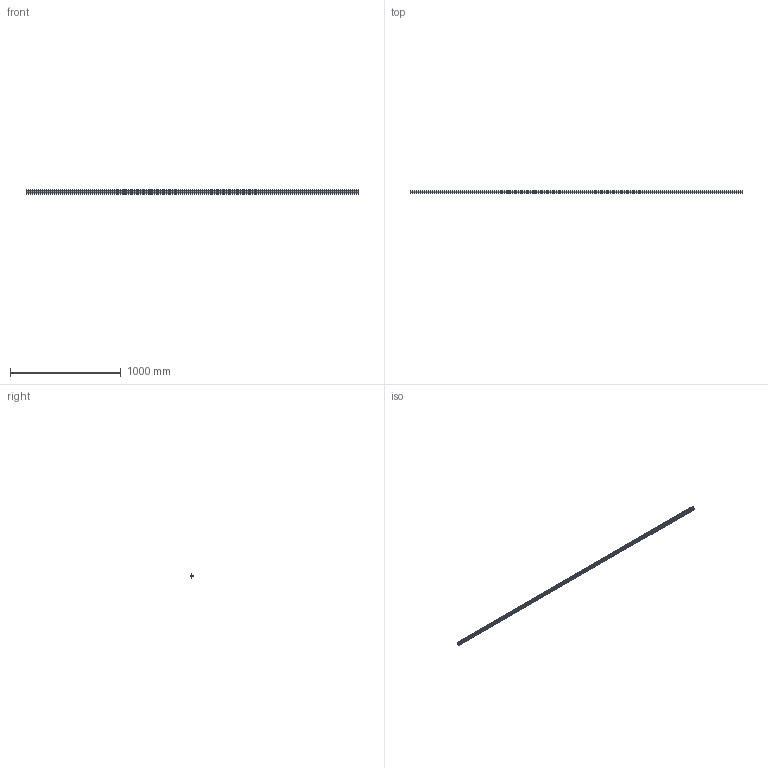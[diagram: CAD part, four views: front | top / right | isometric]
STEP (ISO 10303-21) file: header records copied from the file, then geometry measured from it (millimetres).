
FILE_DESCRIPTION((''),'2;1');
FILE_NAME('KC-0006-02-M7E-2000_ASM','2025-08-01T14:11:09',('YF-06'),(''),'CREO PARAMETRIC BY PTC INC, 2022073','CREO PARAMETRIC BY PTC INC, 2022073','');
FILE_SCHEMA(('CONFIG_CONTROL_DESIGN','SHAPE_APPEARANCE_LAYERS_GROUPS'));
Length unit declared in the file: millimetre
Products named in the file (4): KC-0006-0139; KC-0006-0137; KC-0006-0138; KC-0006-02-M7E-2000_ASM
Assembly tree (3 placements, depth 2):
  KC-0006-02-M7E-2000_ASM
    KC-0006-0139
    KC-0006-0137
    KC-0006-0138
Bounding box: 3000 x 20.7 x 44.5 mm (x, y, z)
Volume: 517989.6 mm3; surface area: 735965.3 mm2
Topology: 7 solids, 7 shells, 212 faces, 594 edges, 396 vertices
Faces by surface type: plane 146, cylinder 66
Entity records: 7144 total; most frequent: CARTESIAN_POINT 1209, ORIENTED_EDGE 1188, DIRECTION 1164, EDGE_CURVE 594, VECTOR 462, LINE 462, VERTEX_POINT 396, AXIS2_PLACEMENT_3D 351
